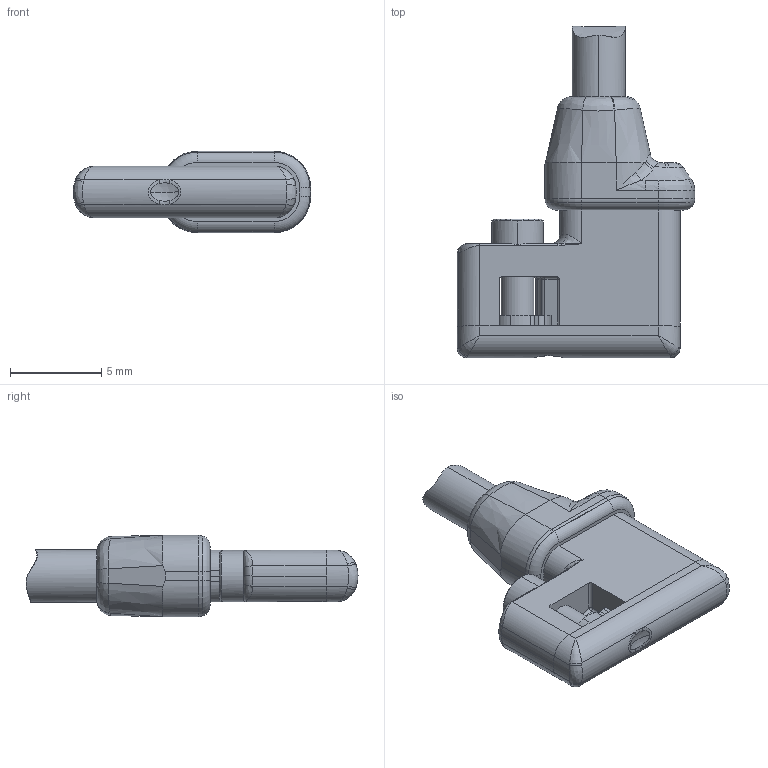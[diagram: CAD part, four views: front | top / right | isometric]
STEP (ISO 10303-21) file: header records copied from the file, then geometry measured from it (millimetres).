
FILE_DESCRIPTION((''),'2;1');
FILE_NAME('R412026165','2023-08-21T19:03:58',('THD3HC'),(''),'CREO PARAMETRIC BY PTC INC, 2020044','CREO PARAMETRIC BY PTC INC, 2020044','');
FILE_SCHEMA(('CONFIG_CONTROL_DESIGN','SHAPE_APPEARANCE_LAYERS_GROUPS'));
Length unit declared in the file: millimetre
Products named in the file (1): R412026165
Bounding box: 13 x 18.17 x 4.45 mm (x, y, z)
Volume: 387 mm3; surface area: 462.7 mm2
Topology: 1 solids, 1 shells, 214 faces, 560 edges, 337 vertices
Faces by surface type: cylinder 75, bspline 65, plane 43, torus 20, cone 6, sphere 4, extrusion 1
Entity records: 14901 total; most frequent: CARTESIAN_POINT 5978, ORIENTED_EDGE 1096, DIRECTION 800, PRESENTATION_STYLE_ASSIGNMENT 761, STYLED_ITEM 550, CURVE_STYLE 549, EDGE_CURVE 548, FILL_AREA_STYLE_COLOUR 423
